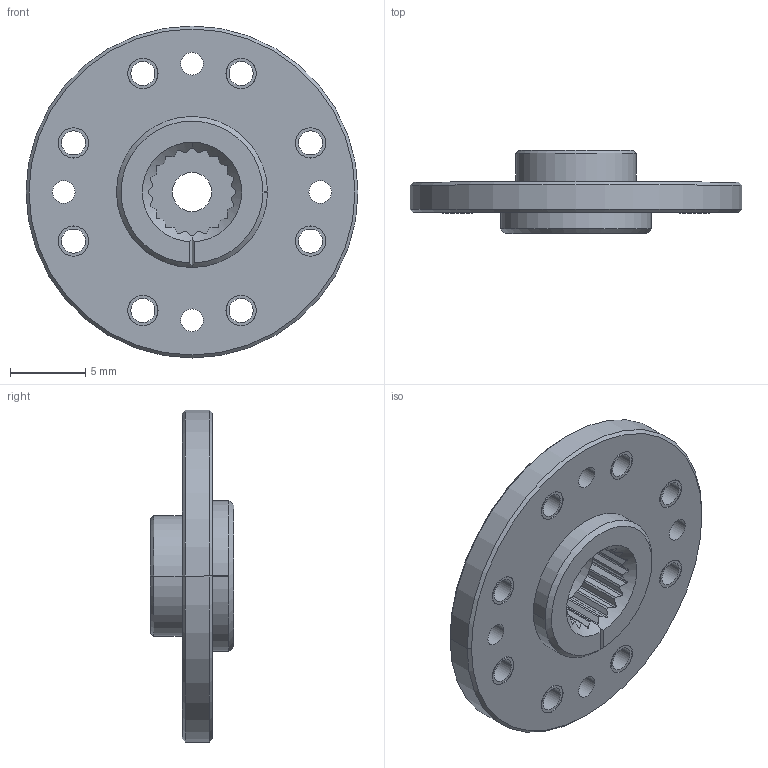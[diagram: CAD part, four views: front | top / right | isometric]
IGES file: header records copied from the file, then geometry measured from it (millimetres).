
Start section:  PTC IGES file: HN07-T1.igs
Global section: file name: HN07-T1.igs; native system: Pro/ENGINEER by Parametric Technology Corporation; preprocessor: 2009060; author: Andy; organization: Unknown; date: 20111107.151817; units: millimetre
Bounding box: 22 x 5.5 x 22 mm (x, y, z)
Surface area: 1589.7 mm2 (no closed solid volume)
Topology: 0 solids, 0 shells, 189 faces, 1366 edges, 1568 vertices
Faces by surface type: revolution 142, bspline 47
